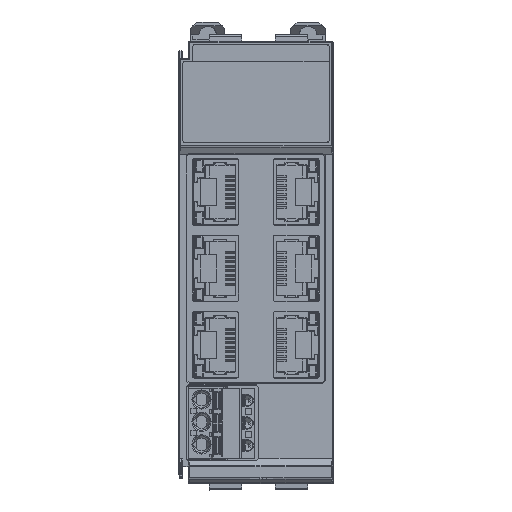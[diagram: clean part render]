
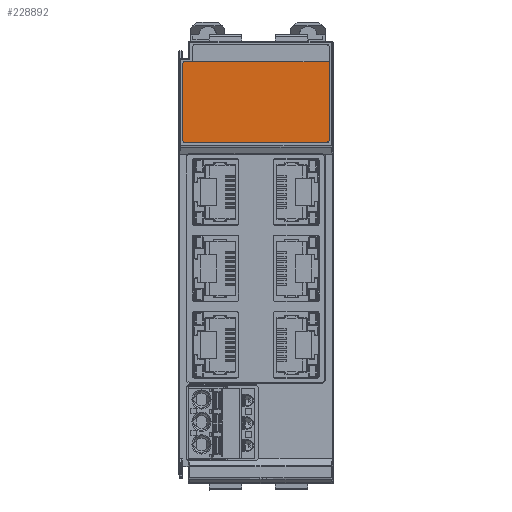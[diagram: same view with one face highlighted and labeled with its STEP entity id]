
A CAD part, top view. The second image highlights one B-rep face of the part: STEP entity #228892.
In plain terms, the highlighted planar face has unit normal (0, 0, 1).
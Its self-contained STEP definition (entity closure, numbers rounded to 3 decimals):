
#228818=CARTESIAN_POINT('',(25.303,-27.094,64.55));
#228819=DIRECTION('',(1.,0.,0.));
#228820=DIRECTION('',(0.,0.,1.));
#228821=AXIS2_PLACEMENT_3D('',#228818,#228820,#228819);
#228822=PLANE('',#228821);
#228823=CARTESIAN_POINT('',(0.149,-34.14,64.549));
#228824=VERTEX_POINT('',#228823);
#228825=CARTESIAN_POINT('',(0.599,-34.59,64.549));
#228826=VERTEX_POINT('',#228825);
#228827=CARTESIAN_POINT('',(0.599,-34.14,64.549));
#228828=DIRECTION('',(-1.,0.,0.));
#228829=DIRECTION('',(0.,0.,1.));
#228830=AXIS2_PLACEMENT_3D('',#228827,#228829,#228828);
#228831=CIRCLE('',#228830,0.45);
#228832=EDGE_CURVE('',#228824,#228826,#228831,.T.);
#228833=ORIENTED_EDGE('',*,*,#228832,.T.);
#228834=CARTESIAN_POINT('',(32.799,-34.59,64.55));
#228835=VERTEX_POINT('',#228834);
#228836=CARTESIAN_POINT('',(0.599,-34.59,64.549));
#228837=DIRECTION('',(1.,0.,0.));
#228838=VECTOR('',#228837,32.2);
#228839=LINE('',#228836,#228838);
#228840=EDGE_CURVE('',#228826,#228835,#228839,.T.);
#228841=ORIENTED_EDGE('',*,*,#228840,.T.);
#228842=CARTESIAN_POINT('',(33.249,-34.14,64.55));
#228843=VERTEX_POINT('',#228842);
#228844=CARTESIAN_POINT('',(32.799,-34.14,64.55));
#228845=DIRECTION('',(0.,-1.,0.));
#228846=DIRECTION('',(0.,0.,1.));
#228847=AXIS2_PLACEMENT_3D('',#228844,#228846,#228845);
#228848=CIRCLE('',#228847,0.45);
#228849=EDGE_CURVE('',#228835,#228843,#228848,.T.);
#228850=ORIENTED_EDGE('',*,*,#228849,.T.);
#228851=CARTESIAN_POINT('',(33.249,-16.29,64.55));
#228852=VERTEX_POINT('',#228851);
#228853=CARTESIAN_POINT('',(33.249,-34.14,64.55));
#228854=DIRECTION('',(0.,1.,0.));
#228855=VECTOR('',#228854,17.85);
#228856=LINE('',#228853,#228855);
#228857=EDGE_CURVE('',#228843,#228852,#228856,.T.);
#228858=ORIENTED_EDGE('',*,*,#228857,.T.);
#228859=CARTESIAN_POINT('',(2.449,-16.29,64.549));
#228860=VERTEX_POINT('',#228859);
#228861=CARTESIAN_POINT('',(33.249,-16.29,64.55));
#228862=DIRECTION('',(-1.,0.,0.));
#228863=VECTOR('',#228862,30.8);
#228864=LINE('',#228861,#228863);
#228865=EDGE_CURVE('',#228852,#228860,#228864,.T.);
#228866=ORIENTED_EDGE('',*,*,#228865,.T.);
#228867=CARTESIAN_POINT('',(0.599,-16.29,64.549));
#228868=VERTEX_POINT('',#228867);
#228869=CARTESIAN_POINT('',(2.449,-16.29,64.549));
#228870=DIRECTION('',(-1.,0.,0.));
#228871=VECTOR('',#228870,1.85);
#228872=LINE('',#228869,#228871);
#228873=EDGE_CURVE('',#228860,#228868,#228872,.T.);
#228874=ORIENTED_EDGE('',*,*,#228873,.T.);
#228875=CARTESIAN_POINT('',(0.149,-16.74,64.549));
#228876=VERTEX_POINT('',#228875);
#228877=CARTESIAN_POINT('',(0.599,-16.74,64.549));
#228878=DIRECTION('',(0.,1.,0.));
#228879=DIRECTION('',(0.,0.,1.));
#228880=AXIS2_PLACEMENT_3D('',#228877,#228879,#228878);
#228881=CIRCLE('',#228880,0.45);
#228882=EDGE_CURVE('',#228868,#228876,#228881,.T.);
#228883=ORIENTED_EDGE('',*,*,#228882,.T.);
#228884=CARTESIAN_POINT('',(0.149,-16.74,64.549));
#228885=DIRECTION('',(0.,-1.,0.));
#228886=VECTOR('',#228885,17.4);
#228887=LINE('',#228884,#228886);
#228888=EDGE_CURVE('',#228876,#228824,#228887,.T.);
#228889=ORIENTED_EDGE('',*,*,#228888,.T.);
#228890=EDGE_LOOP('',(#228833,#228841,#228850,#228858,#228866,#228874,#228883,#228889));
#228891=FACE_OUTER_BOUND('',#228890,.T.);
#228892=ADVANCED_FACE('',(#228891),#228822,.T.);
